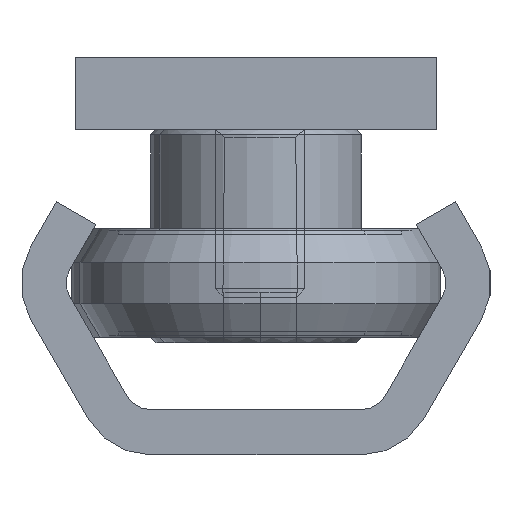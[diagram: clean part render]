
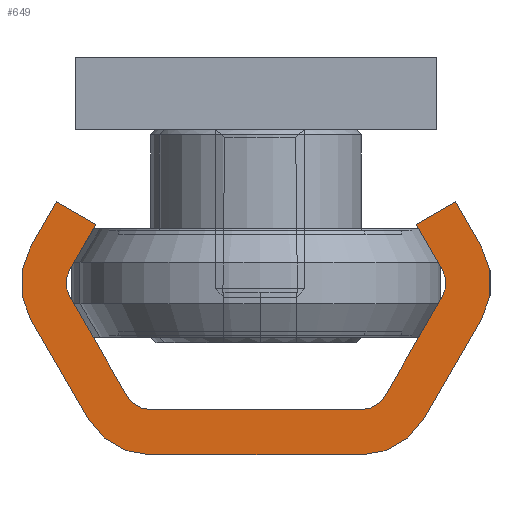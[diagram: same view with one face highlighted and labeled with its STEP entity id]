
A CAD part, left-side view. The second image highlights one B-rep face of the part: STEP entity #649.
In plain terms, the highlighted planar face has unit normal (-1, 0, 0).
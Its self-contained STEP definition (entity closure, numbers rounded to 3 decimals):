
#649 = ADVANCED_FACE( '', ( #1442 ), #1443, .F. );
#1442 = FACE_OUTER_BOUND( '', #2464, .T. );
#1443 = PLANE( '', #2465 );
#2464 = EDGE_LOOP( '', ( #3798, #3799, #3800, #3801, #3802, #3803, #3804, #3805, #3806, #3807, #3808, #3809, #3810, #3811, #3812, #3813, #3814, #3815, #3816, #3817 ) );
#2465 = AXIS2_PLACEMENT_3D( '', #3818, #3819, #3820 );
#3798 = ORIENTED_EDGE( '', *, *, #4411, .F. );
#3799 = ORIENTED_EDGE( '', *, *, #4581, .F. );
#3800 = ORIENTED_EDGE( '', *, *, #4502, .F. );
#3801 = ORIENTED_EDGE( '', *, *, #4565, .F. );
#3802 = ORIENTED_EDGE( '', *, *, #4528, .F. );
#3803 = ORIENTED_EDGE( '', *, *, #4189, .F. );
#3804 = ORIENTED_EDGE( '', *, *, #4462, .F. );
#3805 = ORIENTED_EDGE( '', *, *, #4550, .T. );
#3806 = ORIENTED_EDGE( '', *, *, #4451, .F. );
#3807 = ORIENTED_EDGE( '', *, *, #4368, .T. );
#3808 = ORIENTED_EDGE( '', *, *, #4307, .F. );
#3809 = ORIENTED_EDGE( '', *, *, #4601, .T. );
#3810 = ORIENTED_EDGE( '', *, *, #4241, .F. );
#3811 = ORIENTED_EDGE( '', *, *, #4217, .T. );
#3812 = ORIENTED_EDGE( '', *, *, #4328, .F. );
#3813 = ORIENTED_EDGE( '', *, *, #4587, .F. );
#3814 = ORIENTED_EDGE( '', *, *, #4491, .F. );
#3815 = ORIENTED_EDGE( '', *, *, #4526, .F. );
#3816 = ORIENTED_EDGE( '', *, *, #4349, .F. );
#3817 = ORIENTED_EDGE( '', *, *, #4499, .F. );
#3818 = CARTESIAN_POINT( '', ( 0., -5.825, -4. ) );
#3819 = DIRECTION( '', ( 1., 0., 0. ) );
#3820 = DIRECTION( '', ( 0., 0., -1. ) );
#4189 = EDGE_CURVE( '', #4805, #4806, #4807, .T. );
#4217 = EDGE_CURVE( '', #4851, #4852, #4853, .T. );
#4241 = EDGE_CURVE( '', #4851, #4889, #4890, .T. );
#4307 = EDGE_CURVE( '', #5004, #5005, #5006, .T. );
#4328 = EDGE_CURVE( '', #5035, #4852, #5036, .T. );
#4349 = EDGE_CURVE( '', #5064, #5065, #5066, .T. );
#4368 = EDGE_CURVE( '', #5095, #5005, #5096, .T. );
#4411 = EDGE_CURVE( '', #5170, #5171, #5172, .T. );
#4451 = EDGE_CURVE( '', #5095, #5232, #5233, .T. );
#4462 = EDGE_CURVE( '', #5248, #4805, #5249, .T. );
#4491 = EDGE_CURVE( '', #5293, #5294, #5295, .T. );
#4499 = EDGE_CURVE( '', #5171, #5064, #5307, .T. );
#4502 = EDGE_CURVE( '', #5310, #5311, #5312, .T. );
#4526 = EDGE_CURVE( '', #5065, #5293, #5341, .T. );
#4528 = EDGE_CURVE( '', #4806, #5343, #5344, .T. );
#4550 = EDGE_CURVE( '', #5248, #5232, #5370, .T. );
#4565 = EDGE_CURVE( '', #5343, #5310, #5388, .T. );
#4581 = EDGE_CURVE( '', #5311, #5170, #5408, .T. );
#4587 = EDGE_CURVE( '', #5294, #5035, #5415, .T. );
#4601 = EDGE_CURVE( '', #5004, #4889, #5430, .T. );
#4805 = VERTEX_POINT( '', #5668 );
#4806 = VERTEX_POINT( '', #5669 );
#4807 = LINE( '', #5670, #5671 );
#4851 = VERTEX_POINT( '', #5720 );
#4852 = VERTEX_POINT( '', #5721 );
#4853 = CIRCLE( '', #5722, 1.5 );
#4889 = VERTEX_POINT( '', #5766 );
#4890 = LINE( '', #5767, #5768 );
#5004 = VERTEX_POINT( '', #5890 );
#5005 = VERTEX_POINT( '', #5891 );
#5006 = LINE( '', #5892, #5893 );
#5035 = VERTEX_POINT( '', #5934 );
#5036 = LINE( '', #5935, #5936 );
#5064 = VERTEX_POINT( '', #5970 );
#5065 = VERTEX_POINT( '', #5971 );
#5066 = LINE( '', #5972, #5973 );
#5095 = VERTEX_POINT( '', #6009 );
#5096 = CIRCLE( '', #6010, 1.5 );
#5170 = VERTEX_POINT( '', #6092 );
#5171 = VERTEX_POINT( '', #6093 );
#5172 = LINE( '', #6094, #6095 );
#5232 = VERTEX_POINT( '', #6160 );
#5233 = LINE( '', #6161, #6162 );
#5248 = VERTEX_POINT( '', #6179 );
#5249 = LINE( '', #6180, #6181 );
#5293 = VERTEX_POINT( '', #6238 );
#5294 = VERTEX_POINT( '', #6239 );
#5295 = LINE( '', #6240, #6241 );
#5307 = CIRCLE( '', #6256, 4. );
#5310 = VERTEX_POINT( '', #6259 );
#5311 = VERTEX_POINT( '', #6260 );
#5312 = LINE( '', #6261, #6262 );
#5341 = CIRCLE( '', #6298, 4. );
#5343 = VERTEX_POINT( '', #6300 );
#5344 = LINE( '', #6301, #6302 );
#5370 = CIRCLE( '', #6330, 1.5 );
#5388 = CIRCLE( '', #6348, 4. );
#5408 = CIRCLE( '', #6370, 4. );
#5415 = LINE( '', #6377, #6378 );
#5430 = CIRCLE( '', #6393, 1.5 );
#5668 = CARTESIAN_POINT( '', ( 0., 8.856, -12.75 ) );
#5669 = CARTESIAN_POINT( '', ( 0., 11.021, -14. ) );
#5670 = CARTESIAN_POINT( '', ( 0., 8.856, -12.75 ) );
#5671 = VECTOR( '', #6597, 1000. );
#5720 = CARTESIAN_POINT( '', ( 0., -10.299, -8.75 ) );
#5721 = CARTESIAN_POINT( '', ( 0., -10.299, -10.25 ) );
#5722 = AXIS2_PLACEMENT_3D( '', #6651, #6652, #6653 );
#5766 = CARTESIAN_POINT( '', ( 0., -7.124, -3.25 ) );
#5767 = CARTESIAN_POINT( '', ( 0., -10.299, -8.75 ) );
#5768 = VECTOR( '', #6686, 1000. );
#5890 = CARTESIAN_POINT( '', ( 0., -5.825, -2.5 ) );
#5891 = CARTESIAN_POINT( '', ( 0., 5.825, -2.5 ) );
#5892 = CARTESIAN_POINT( '', ( 0., -5.825, -2.5 ) );
#5893 = VECTOR( '', #6830, 1000. );
#5934 = CARTESIAN_POINT( '', ( 0., -8.856, -12.75 ) );
#5935 = CARTESIAN_POINT( '', ( 0., -8.856, -12.75 ) );
#5936 = VECTOR( '', #6849, 1000. );
#5970 = CARTESIAN_POINT( '', ( 0., -9.289, -2. ) );
#5971 = CARTESIAN_POINT( '', ( 0., -12.464, -7.5 ) );
#5972 = CARTESIAN_POINT( '', ( 0., -9.289, -2. ) );
#5973 = VECTOR( '', #6874, 1000. );
#6009 = CARTESIAN_POINT( '', ( 0., 7.124, -3.25 ) );
#6010 = AXIS2_PLACEMENT_3D( '', #6897, #6898, #6899 );
#6092 = CARTESIAN_POINT( '', ( 0., 5.825, 0. ) );
#6093 = CARTESIAN_POINT( '', ( 0., -5.825, 0. ) );
#6094 = CARTESIAN_POINT( '', ( 0., 5.825, 0. ) );
#6095 = VECTOR( '', #6992, 1000. );
#6160 = CARTESIAN_POINT( '', ( 0., 10.299, -8.75 ) );
#6161 = CARTESIAN_POINT( '', ( 0., 7.124, -3.25 ) );
#6162 = VECTOR( '', #7070, 1000. );
#6179 = CARTESIAN_POINT( '', ( 0., 10.299, -10.25 ) );
#6180 = CARTESIAN_POINT( '', ( 0., 10.299, -10.25 ) );
#6181 = VECTOR( '', #7082, 1000. );
#6238 = CARTESIAN_POINT( '', ( 0., -12.464, -11.5 ) );
#6239 = CARTESIAN_POINT( '', ( 0., -11.021, -14. ) );
#6240 = CARTESIAN_POINT( '', ( 0., -12.464, -11.5 ) );
#6241 = VECTOR( '', #7126, 1000. );
#6256 = AXIS2_PLACEMENT_3D( '', #7136, #7137, #7138 );
#6259 = CARTESIAN_POINT( '', ( 0., 12.464, -7.5 ) );
#6260 = CARTESIAN_POINT( '', ( 0., 9.289, -2. ) );
#6261 = CARTESIAN_POINT( '', ( 0., 12.464, -7.5 ) );
#6262 = VECTOR( '', #7142, 1000. );
#6298 = AXIS2_PLACEMENT_3D( '', #7171, #7172, #7173 );
#6300 = CARTESIAN_POINT( '', ( 0., 12.464, -11.5 ) );
#6301 = CARTESIAN_POINT( '', ( 0., 11.021, -14. ) );
#6302 = VECTOR( '', #7174, 1000. );
#6330 = AXIS2_PLACEMENT_3D( '', #7195, #7196, #7197 );
#6348 = AXIS2_PLACEMENT_3D( '', #7210, #7211, #7212 );
#6370 = AXIS2_PLACEMENT_3D( '', #7227, #7228, #7229 );
#6377 = CARTESIAN_POINT( '', ( 0., -11.021, -14. ) );
#6378 = VECTOR( '', #7233, 1000. );
#6393 = AXIS2_PLACEMENT_3D( '', #7240, #7241, #7242 );
#6597 = DIRECTION( '', ( 0., 0.866, -0.5 ) );
#6651 = CARTESIAN_POINT( '', ( 0., -9., -9.5 ) );
#6652 = DIRECTION( '', ( 1., 0., 0. ) );
#6653 = DIRECTION( '', ( 0., 0., -1. ) );
#6686 = DIRECTION( '', ( 0., 0.5, 0.866 ) );
#6830 = DIRECTION( '', ( 0., 1., 0. ) );
#6849 = DIRECTION( '', ( 0., -0.5, 0.866 ) );
#6874 = DIRECTION( '', ( 0., -0.5, -0.866 ) );
#6897 = CARTESIAN_POINT( '', ( 0., 5.825, -4. ) );
#6898 = DIRECTION( '', ( 1., 0., 0. ) );
#6899 = DIRECTION( '', ( 0., 0., -1. ) );
#6992 = DIRECTION( '', ( 0., -1., 0. ) );
#7070 = DIRECTION( '', ( 0., 0.5, -0.866 ) );
#7082 = DIRECTION( '', ( 0., -0.5, -0.866 ) );
#7126 = DIRECTION( '', ( 0., 0.5, -0.866 ) );
#7136 = CARTESIAN_POINT( '', ( 0., -5.825, -4. ) );
#7137 = DIRECTION( '', ( 1., 0., 0. ) );
#7138 = DIRECTION( '', ( 0., 0., -1. ) );
#7142 = DIRECTION( '', ( 0., -0.5, 0.866 ) );
#7171 = CARTESIAN_POINT( '', ( 0., -9., -9.5 ) );
#7172 = DIRECTION( '', ( 1., 0., 0. ) );
#7173 = DIRECTION( '', ( 0., 0., -1. ) );
#7174 = DIRECTION( '', ( 0., 0.5, 0.866 ) );
#7195 = CARTESIAN_POINT( '', ( 0., 9., -9.5 ) );
#7196 = DIRECTION( '', ( 1., 0., 0. ) );
#7197 = DIRECTION( '', ( 0., 0., -1. ) );
#7210 = CARTESIAN_POINT( '', ( 0., 9., -9.5 ) );
#7211 = DIRECTION( '', ( 1., 0., 0. ) );
#7212 = DIRECTION( '', ( 0., 0., -1. ) );
#7227 = CARTESIAN_POINT( '', ( 0., 5.825, -4. ) );
#7228 = DIRECTION( '', ( 1., 0., 0. ) );
#7229 = DIRECTION( '', ( 0., 0., -1. ) );
#7233 = DIRECTION( '', ( 0., 0.866, 0.5 ) );
#7240 = CARTESIAN_POINT( '', ( 0., -5.825, -4. ) );
#7241 = DIRECTION( '', ( 1., 0., 0. ) );
#7242 = DIRECTION( '', ( 0., 0., -1. ) );
